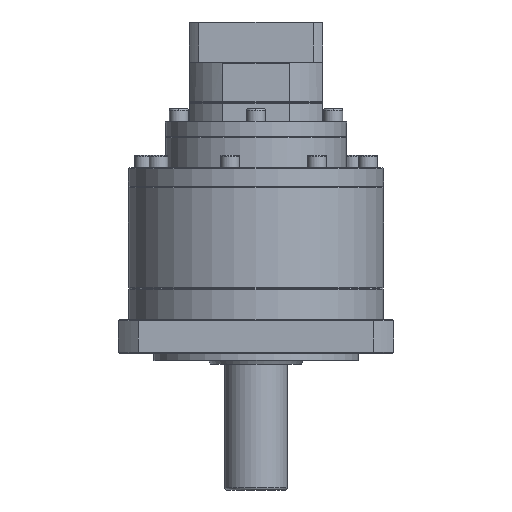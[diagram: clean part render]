
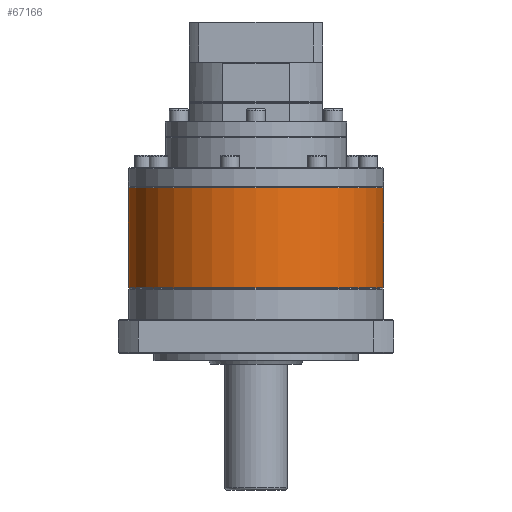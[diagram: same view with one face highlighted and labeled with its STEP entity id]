
A CAD part, front view. The second image highlights one B-rep face of the part: STEP entity #67166.
In plain terms, the highlighted cylindrical face has radius 81 mm (diameter 162 mm), a partial arc.
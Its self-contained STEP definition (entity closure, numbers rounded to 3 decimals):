
#1796 = EDGE_CURVE ( 'NONE', #44120, #20884, #32341, .T. ) ;
#4633 = DIRECTION ( 'NONE',  ( -1., 0., 0. ) ) ;
#9177 = CARTESIAN_POINT ( 'NONE',  ( -90.772, 31.792, -139.952 ) ) ;
#10018 = VECTOR ( 'NONE', #58643, 1000. ) ;
#11106 = FACE_OUTER_BOUND ( 'NONE', #47878, .T. ) ;
#12740 = CARTESIAN_POINT ( 'NONE',  ( -9.772, 31.792, -139.952 ) ) ;
#13193 = CARTESIAN_POINT ( 'NONE',  ( -90.772, 31.792, -75.952 ) ) ;
#18684 = AXIS2_PLACEMENT_3D ( 'NONE', #9177, #58132, #90041 ) ;
#19487 = ORIENTED_EDGE ( 'NONE', *, *, #63574, .T. ) ;
#19752 = DIRECTION ( 'NONE',  ( -1., 0., 0. ) ) ;
#19773 = CARTESIAN_POINT ( 'NONE',  ( -171.772, 31.792, -139.952 ) ) ;
#20884 = VERTEX_POINT ( 'NONE', #63314 ) ;
#31164 = EDGE_CURVE ( 'NONE', #101887, #51375, #70931, .T. ) ;
#32341 = CIRCLE ( 'NONE', #81548, 81. ) ;
#32838 = LINE ( 'NONE', #66741, #10018 ) ;
#41599 = ORIENTED_EDGE ( 'NONE', *, *, #61024, .F. ) ;
#44120 = VERTEX_POINT ( 'NONE', #84598 ) ;
#45091 = DIRECTION ( 'NONE',  ( 0., 0., -1. ) ) ;
#47878 = EDGE_LOOP ( 'NONE', ( #41599, #103295, #19487, #101593 ) ) ;
#51375 = VERTEX_POINT ( 'NONE', #12740 ) ;
#56688 = CYLINDRICAL_SURFACE ( 'NONE', #83752, 81. ) ;
#58132 = DIRECTION ( 'NONE',  ( 0., 0., 1. ) ) ;
#58643 = DIRECTION ( 'NONE',  ( 0., 0., -1. ) ) ;
#60130 = CARTESIAN_POINT ( 'NONE',  ( -90.772, 31.792, -76.452 ) ) ;
#61024 = EDGE_CURVE ( 'NONE', #44120, #51375, #80181, .T. ) ;
#63314 = CARTESIAN_POINT ( 'NONE',  ( -171.772, 31.792, -76.452 ) ) ;
#63574 = EDGE_CURVE ( 'NONE', #20884, #101887, #32838, .T. ) ;
#66741 = CARTESIAN_POINT ( 'NONE',  ( -171.772, 31.792, -75.952 ) ) ;
#67166 = ADVANCED_FACE ( 'NONE', ( #11106 ), #56688, .T. ) ;
#69998 = VECTOR ( 'NONE', #77316, 1000. ) ;
#70931 = CIRCLE ( 'NONE', #18684, 81. ) ;
#77316 = DIRECTION ( 'NONE',  ( 0., 0., -1. ) ) ;
#80181 = LINE ( 'NONE', #85138, #69998 ) ;
#81548 = AXIS2_PLACEMENT_3D ( 'NONE', #60130, #93447, #19752 ) ;
#83752 = AXIS2_PLACEMENT_3D ( 'NONE', #13193, #45091, #4633 ) ;
#84598 = CARTESIAN_POINT ( 'NONE',  ( -9.772, 31.792, -76.452 ) ) ;
#85138 = CARTESIAN_POINT ( 'NONE',  ( -9.772, 31.792, -75.952 ) ) ;
#90041 = DIRECTION ( 'NONE',  ( -1., 0., 0. ) ) ;
#93447 = DIRECTION ( 'NONE',  ( 0., 0., -1. ) ) ;
#101593 = ORIENTED_EDGE ( 'NONE', *, *, #31164, .T. ) ;
#101887 = VERTEX_POINT ( 'NONE', #19773 ) ;
#103295 = ORIENTED_EDGE ( 'NONE', *, *, #1796, .T. ) ;
